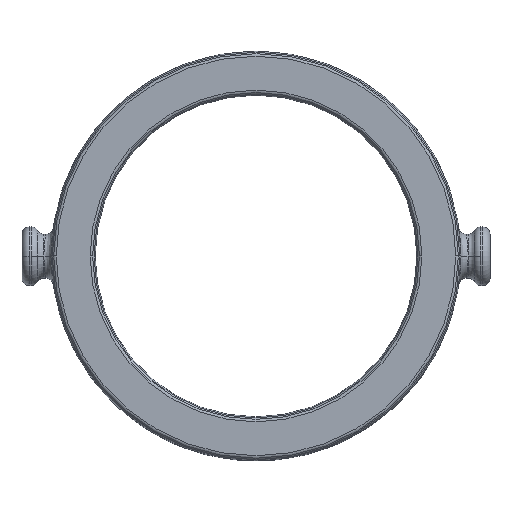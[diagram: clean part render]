
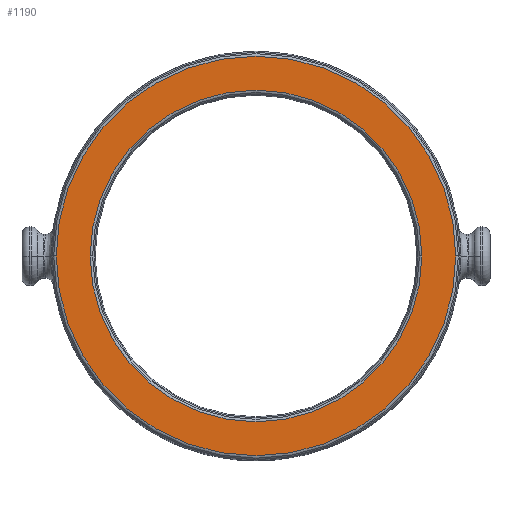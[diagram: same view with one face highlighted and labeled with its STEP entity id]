
A CAD part, top view. The second image highlights one B-rep face of the part: STEP entity #1190.
In plain terms, the highlighted planar face has unit normal (0, 0, 1).
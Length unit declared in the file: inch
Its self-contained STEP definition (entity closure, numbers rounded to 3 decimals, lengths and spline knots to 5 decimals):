
#11 = EDGE_CURVE ( 'NONE', #3015, #3104, #2296, .T. ) ;
#40 = ORIENTED_EDGE ( 'NONE', *, *, #1994, .T. ) ;
#75 = AXIS2_PLACEMENT_3D ( 'NONE', #1631, #866, #2919 ) ;
#227 = CARTESIAN_POINT ( 'NONE',  ( 0., 0., 0.4375 ) ) ;
#266 = FACE_OUTER_BOUND ( 'NONE', #276, .T. ) ;
#276 = EDGE_LOOP ( 'NONE', ( #1086, #1769 ) ) ;
#347 = EDGE_CURVE ( 'NONE', #435, #869, #2729, .T. ) ;
#435 = VERTEX_POINT ( 'NONE', #2691 ) ;
#442 = AXIS2_PLACEMENT_3D ( 'NONE', #227, #1752, #2511 ) ;
#866 = DIRECTION ( 'NONE',  ( 0., 0., -1. ) ) ;
#869 = VERTEX_POINT ( 'NONE', #2099 ) ;
#880 = DIRECTION ( 'NONE',  ( 0., 0., 1. ) ) ;
#1086 = ORIENTED_EDGE ( 'NONE', *, *, #11, .T. ) ;
#1190 = ADVANCED_FACE ( 'NONE', ( #266, #1279 ), #2033, .T. ) ;
#1279 = FACE_BOUND ( 'NONE', #1975, .T. ) ;
#1303 = CARTESIAN_POINT ( 'NONE',  ( -0.85379, 0., 0.4375 ) ) ;
#1509 = CIRCLE ( 'NONE', #75, 0.70871 ) ;
#1606 = DIRECTION ( 'NONE',  ( 0., 0., -1. ) ) ;
#1631 = CARTESIAN_POINT ( 'NONE',  ( 0., 0., 0.4375 ) ) ;
#1752 = DIRECTION ( 'NONE',  ( 0., 0., 1. ) ) ;
#1769 = ORIENTED_EDGE ( 'NONE', *, *, #1999, .T. ) ;
#1870 = DIRECTION ( 'NONE',  ( 1., 0., 0. ) ) ;
#1903 = DIRECTION ( 'NONE',  ( 1., 0., 0. ) ) ;
#1921 = CIRCLE ( 'NONE', #2342, 0.85379 ) ;
#1975 = EDGE_LOOP ( 'NONE', ( #40, #2332 ) ) ;
#1994 = EDGE_CURVE ( 'NONE', #869, #435, #1509, .T. ) ;
#1999 = EDGE_CURVE ( 'NONE', #3104, #3015, #1921, .T. ) ;
#2033 = PLANE ( 'NONE',  #442 ) ;
#2099 = CARTESIAN_POINT ( 'NONE',  ( 0.70871, 0., 0.4375 ) ) ;
#2184 = DIRECTION ( 'NONE',  ( 1., 0., 0. ) ) ;
#2296 = CIRCLE ( 'NONE', #3044, 0.85379 ) ;
#2332 = ORIENTED_EDGE ( 'NONE', *, *, #347, .T. ) ;
#2342 = AXIS2_PLACEMENT_3D ( 'NONE', #2633, #880, #1903 ) ;
#2511 = DIRECTION ( 'NONE',  ( 1., 0., 0. ) ) ;
#2633 = CARTESIAN_POINT ( 'NONE',  ( 0., 0., 0.4375 ) ) ;
#2691 = CARTESIAN_POINT ( 'NONE',  ( -0.70871, 0., 0.4375 ) ) ;
#2700 = CARTESIAN_POINT ( 'NONE',  ( 0.85379, 0., 0.4375 ) ) ;
#2729 = CIRCLE ( 'NONE', #2787, 0.70871 ) ;
#2787 = AXIS2_PLACEMENT_3D ( 'NONE', #2862, #1606, #2184 ) ;
#2862 = CARTESIAN_POINT ( 'NONE',  ( 0., 0., 0.4375 ) ) ;
#2919 = DIRECTION ( 'NONE',  ( 1., 0., 0. ) ) ;
#3015 = VERTEX_POINT ( 'NONE', #2700 ) ;
#3044 = AXIS2_PLACEMENT_3D ( 'NONE', #3127, #3143, #1870 ) ;
#3104 = VERTEX_POINT ( 'NONE', #1303 ) ;
#3127 = CARTESIAN_POINT ( 'NONE',  ( 0., 0., 0.4375 ) ) ;
#3143 = DIRECTION ( 'NONE',  ( 0., 0., 1. ) ) ;
